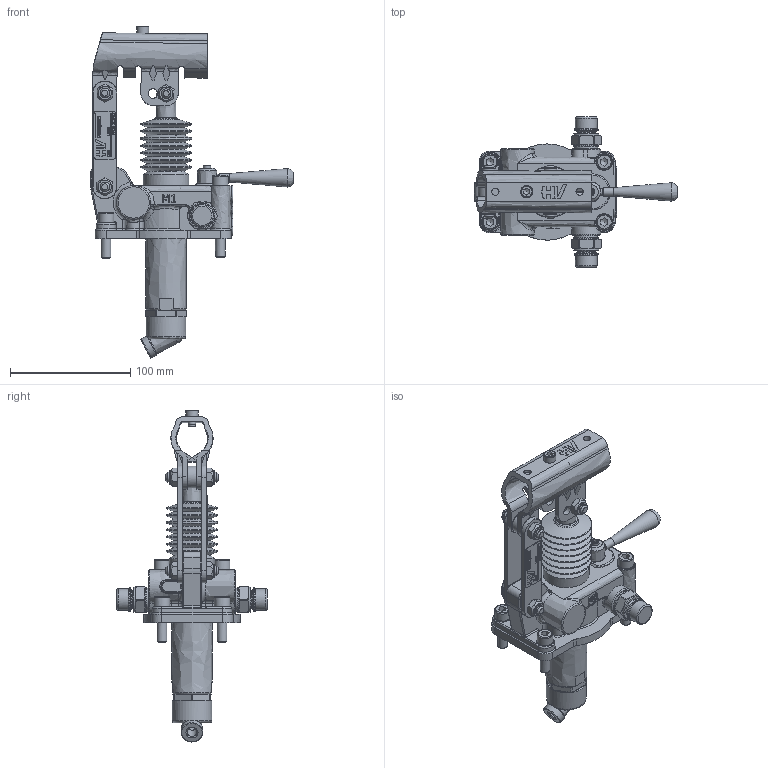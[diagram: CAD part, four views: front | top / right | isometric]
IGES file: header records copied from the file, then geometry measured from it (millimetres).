
Global section: file name: No Iges File Name specified; native system: Autodesk Inventor 2013; preprocessor: AutoDesk Inventor Iges Exporter R2013; author: christian.scardovi; date: 20240304.082821; units: millimetre
Bounding box: 169 x 125 x 276.08 mm (x, y, z)
Surface area: 124420 mm2
Topology: 2 solids, 3 shells, 1498 faces, 3794 edges, 2409 vertices
Faces by surface type: bspline 1498
